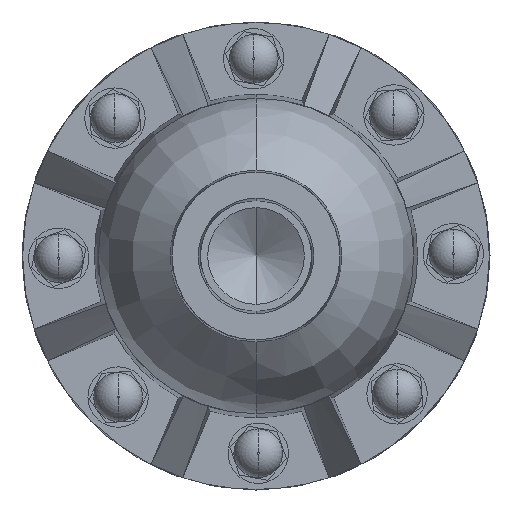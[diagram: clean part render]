
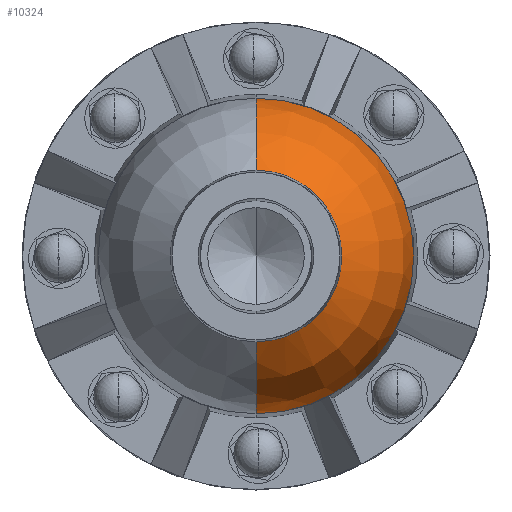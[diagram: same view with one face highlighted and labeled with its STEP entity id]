
A CAD part, front view. The second image highlights one B-rep face of the part: STEP entity #10324.
In plain terms, the highlighted toroidal (fillet/blend) face has major radius 0.717 mm and minor radius 28.448 mm.
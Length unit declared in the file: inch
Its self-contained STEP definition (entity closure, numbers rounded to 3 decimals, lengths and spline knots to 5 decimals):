
#491 = CIRCLE ( 'NONE', #2006, 1.14807 ) ;
#602 = VERTEX_POINT ( 'NONE', #10488 ) ;
#707 = CARTESIAN_POINT ( 'NONE',  ( 0., -1.84955, 1.14807 ) ) ;
#752 = CARTESIAN_POINT ( 'NONE',  ( 0., -1.84955, 0. ) ) ;
#1631 = VERTEX_POINT ( 'NONE', #7856 ) ;
#1816 = EDGE_CURVE ( 'NONE', #602, #9276, #8583, .T. ) ;
#1935 = DIRECTION ( 'NONE',  ( 0., 0., 1. ) ) ;
#1982 = TOROIDAL_SURFACE ( 'NONE', #4552, 0.02824, 1.12 ) ;
#2006 = AXIS2_PLACEMENT_3D ( 'NONE', #752, #7570, #1935 ) ;
#2042 = EDGE_LOOP ( 'NONE', ( #2982, #12370, #8559, #7238 ) ) ;
#2585 = DIRECTION ( 'NONE',  ( 0., 1., 0. ) ) ;
#2982 = ORIENTED_EDGE ( 'NONE', *, *, #1816, .F. ) ;
#3811 = EDGE_CURVE ( 'NONE', #602, #1631, #9428, .T. ) ;
#3928 = CARTESIAN_POINT ( 'NONE',  ( 0., -1.83, 0.02824 ) ) ;
#4032 = CARTESIAN_POINT ( 'NONE',  ( 0., -2.77824, 0. ) ) ;
#4090 = AXIS2_PLACEMENT_3D ( 'NONE', #5062, #11871, #6025 ) ;
#4552 = AXIS2_PLACEMENT_3D ( 'NONE', #10380, #2585, #12344 ) ;
#4928 = DIRECTION ( 'NONE',  ( 0., 0., 1. ) ) ;
#5001 = DIRECTION ( 'NONE',  ( 0., 0., 1. ) ) ;
#5062 = CARTESIAN_POINT ( 'NONE',  ( 0., -1.83, -0.02824 ) ) ;
#6025 = DIRECTION ( 'NONE',  ( 0., 0., -1. ) ) ;
#6145 = EDGE_CURVE ( 'NONE', #6862, #1631, #491, .T. ) ;
#6862 = VERTEX_POINT ( 'NONE', #707 ) ;
#7238 = ORIENTED_EDGE ( 'NONE', *, *, #12482, .F. ) ;
#7570 = DIRECTION ( 'NONE',  ( 0., 1., 0. ) ) ;
#7856 = CARTESIAN_POINT ( 'NONE',  ( 0., -1.84955, -1.14807 ) ) ;
#8121 = CARTESIAN_POINT ( 'NONE',  ( 0., -2.77824, 0.62426 ) ) ;
#8559 = ORIENTED_EDGE ( 'NONE', *, *, #6145, .F. ) ;
#8583 = CIRCLE ( 'NONE', #9797, 0.62426 ) ;
#9276 = VERTEX_POINT ( 'NONE', #8121 ) ;
#9428 = CIRCLE ( 'NONE', #4090, 1.12 ) ;
#9797 = AXIS2_PLACEMENT_3D ( 'NONE', #4032, #10857, #5001 ) ;
#9903 = CIRCLE ( 'NONE', #11783, 1.12 ) ;
#10324 = ADVANCED_FACE ( 'NONE', ( #12657 ), #1982, .T. ) ;
#10380 = CARTESIAN_POINT ( 'NONE',  ( 0., -1.83, 0. ) ) ;
#10488 = CARTESIAN_POINT ( 'NONE',  ( 0., -2.77824, -0.62426 ) ) ;
#10761 = DIRECTION ( 'NONE',  ( -1., 0., 0. ) ) ;
#10857 = DIRECTION ( 'NONE',  ( 0., -1., 0. ) ) ;
#11783 = AXIS2_PLACEMENT_3D ( 'NONE', #3928, #10761, #4928 ) ;
#11871 = DIRECTION ( 'NONE',  ( 1., 0., 0. ) ) ;
#12344 = DIRECTION ( 'NONE',  ( 0., 0., 1. ) ) ;
#12370 = ORIENTED_EDGE ( 'NONE', *, *, #3811, .T. ) ;
#12482 = EDGE_CURVE ( 'NONE', #9276, #6862, #9903, .T. ) ;
#12657 = FACE_OUTER_BOUND ( 'NONE', #2042, .T. ) ;
